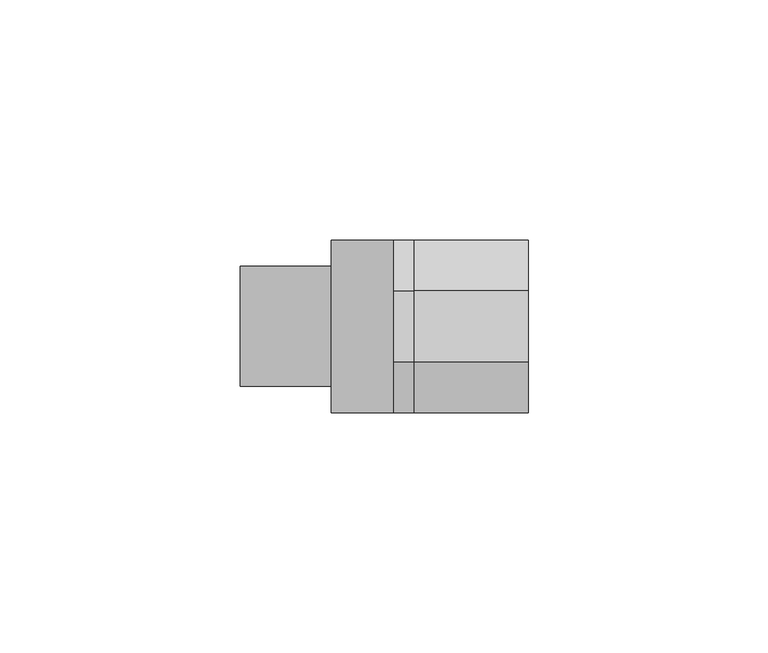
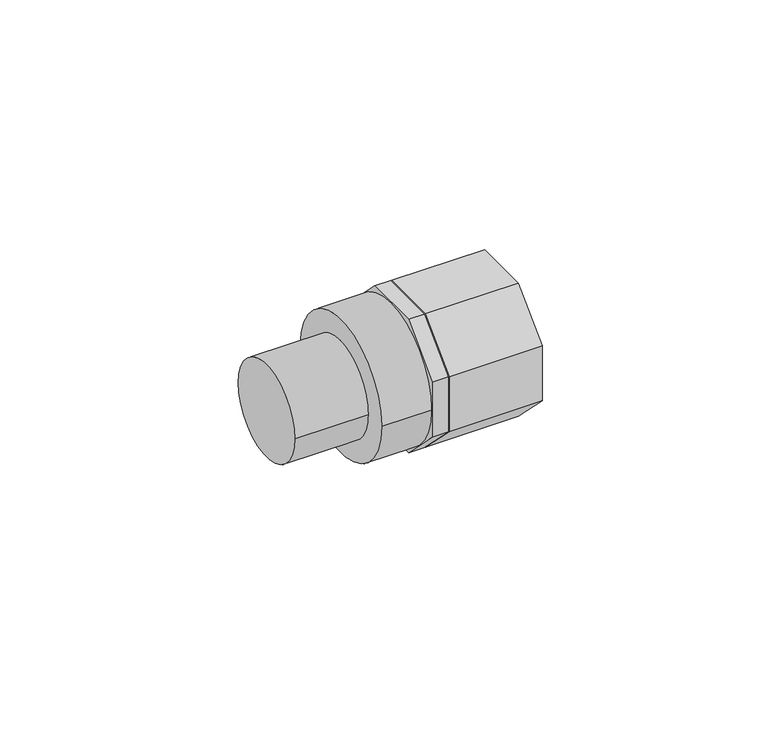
"""IFC4 building model written with IfcOpenShell, lengths in millimetres: pipe fitting geometry, PipeFitting_GirpiHTA_CPVC_AdaptorNipplesA_ForExpansionJoints : PipeFitting_GirpiHTA_CPVC_AdaptorNipplesA_ForExpansionJoints."""

from ifc_helpers import new_model, si_unit, point, frame, origin, origin_2d, place, context, project, spatial, polyline, circle_curve, trimmed, segment, composite_curve, outline, extrude, source, transform, mapped, element, save


def pipe_fitting_4f39839b(model_context):
    return source(origin(), model_context, "Body", "SweptSolid", [
        extrude(outline(polyline([(-18.0, 7.4558441), (-7.4558441, 18.0), (7.4558441, 18.0), (18.0, 7.4558441), (18.0, -7.4558441), (7.4558441, -18.0), (-7.4558441, -18.0), (-18.0, -7.4558441), (-18.0, 7.4558441)])), frame((6.25, 0.0, 0.0), z_axis=(1.0, 0.0, 0.0), x_axis=(0.0, 1.0, 0.0)), (0.0, 0.0, 1.0), 23.75),
        extrude(outline(composite_curve([segment(trimmed(circle_curve(origin_2d(), 6.35), [point((-6.35, 0.0))], [point((6.35, 0.0))], False, "CARTESIAN"), True, "CONTINUOUS"), segment(trimmed(circle_curve(origin_2d(), 6.35), [point((6.35, 0.0))], [point((-6.35, 0.0))], False, "CARTESIAN"), True, "CONTINUOUS")], self_intersect=False)), frame((15.0, 0.0, 0.0), z_axis=(1.0, 0.0, 0.0), x_axis=(0.0, 1.0, 0.0)), (0.0, 0.0, 1.0), 15.0),
        extrude(outline(polyline([(7.4558441, 18.0), (18.0, 7.4558441), (18.0, -7.4558441), (7.4558441, -18.0), (-7.4558441, -18.0), (-18.0, -7.4558441), (-18.0, 7.4558441), (-7.4558441, 18.0), (7.4558441, 18.0)])), frame((2.0, 0.0, 0.0), z_axis=(1.0, 0.0, 0.0), x_axis=(0.0, 1.0, 0.0)), (0.0, 0.0, 1.0), 13.0),
        extrude(outline(composite_curve([segment(trimmed(circle_curve(origin_2d(), 18.0), [point((-18.0, 0.0))], [point((18.0, 0.0))], False, "CARTESIAN"), True, "CONTINUOUS"), segment(trimmed(circle_curve(origin_2d(), 18.0), [point((18.0, 0.0))], [point((-18.0, 0.0))], False, "CARTESIAN"), True, "CONTINUOUS")], self_intersect=False)), frame((-11.0, 0.0, 0.0), z_axis=(1.0, 0.0, 0.0), x_axis=(0.0, 1.0, 0.0)), (0.0, 0.0, 1.0), 13.0),
        extrude(outline(composite_curve([segment(trimmed(circle_curve(origin_2d(), 12.5), [point((-12.5, 0.0))], [point((12.5, 0.0))], False, "CARTESIAN"), True, "CONTINUOUS"), segment(trimmed(circle_curve(origin_2d(), 12.5), [point((12.5, 0.0))], [point((-12.5, 0.0))], False, "CARTESIAN"), True, "CONTINUOUS")], self_intersect=False)), frame((-30.0, 0.0, 0.0), z_axis=(1.0, 0.0, 0.0), x_axis=(0.0, 1.0, 0.0)), (0.0, 0.0, 1.0), 19.0),
    ])


if __name__ == "__main__":
    model = new_model("IFC4")
    model_context = context("Model", 3, world=origin())
    ifc_project = project(units=[si_unit("LENGTHUNIT", "METRE", prefix="MILLI")], contexts=[model_context])
    site = spatial("IfcSite", under=ifc_project)
    building = spatial("IfcBuilding", under=site)
    placement = place(None, origin())
    pipe_fitting_shape = pipe_fitting_4f39839b(model_context)
    element("IfcPipeFitting", 1, ObjectType="PipeFitting_GirpiHTA_CPVC_AdaptorNipplesA_ForExpansionJoints : PipeFitting_GirpiHTA_CPVC_AdaptorNipplesA_ForExpansionJoints", at=placement, inside=building, context=model_context, shape_type="MappedRepresentation", body=[
        mapped(pipe_fitting_shape, transform((0.0, 0.0, 0.0), x_axis=(1.0, 0.0, 0.0), y_axis=(0.0, 1.0, 0.0), z_axis=(0.0, 0.0, 1.0))),
    ])
    save(model, "model.ifc")
